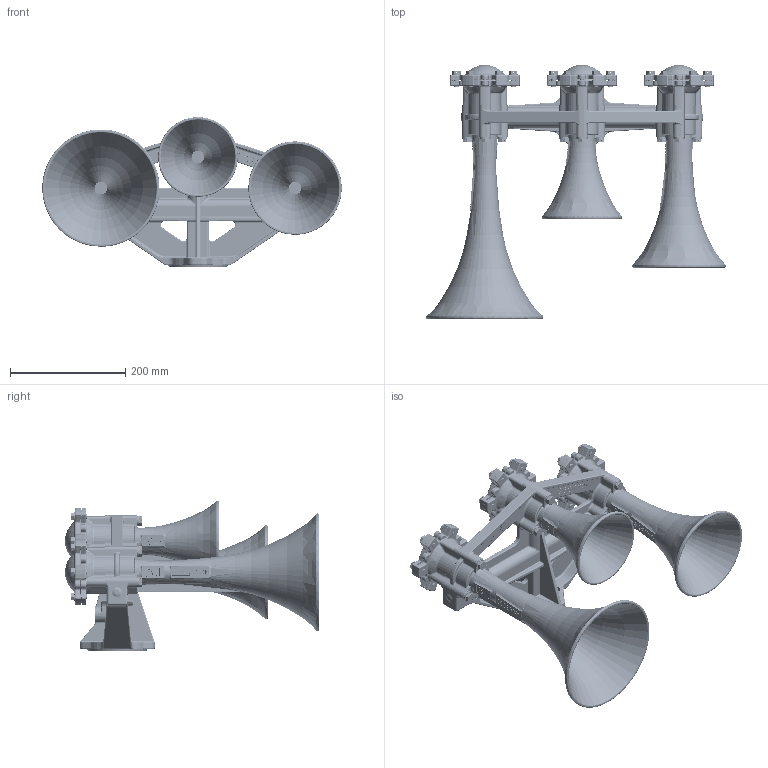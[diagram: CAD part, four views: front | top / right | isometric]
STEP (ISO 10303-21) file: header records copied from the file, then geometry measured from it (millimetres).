
FILE_DESCRIPTION(/* description */ (''),/* implementation_level */ '2;1');
FILE_NAME(/* name */ 'E:/hidden/Engineering Projects/Leslie Controls SuperTyfon/CAD/Assemblies/SuperTyfon S-3B.step',/* time_stamp */ '2022-08-19T15:39:46+10:00',/* author */ (''),/* organization */ (''),/* preprocessor_version */ 'ST-DEVELOPER v19',/* originating_system */ 'Autodesk Translation Framework v11.7.0.108',/* authorisation */ '');
FILE_SCHEMA (('AUTOMOTIVE_DESIGN { 1 0 10303 214 3 1 1 }'));
Length unit declared in the file: inch
Products named in the file (22): SuperTyfon S-3B; 26020 Three Horn Base; Plug Weld; 24311 Gasket; #137547; #137548; #137549; 24438 Diaphragm Ring; 24437 Diaphragm; 25190 Diaphragm Ring Screw; 25200 Cap Screw, Back Cover; 13077 Lock Washer; 25202 Back Cover, Complete; 25190 Diaphragm Housing; 24503 Cap Screw, Horn; 10392 Lock Washer; #137559; #137560; #137561; #137562; #137563; #137564
Assembly tree (93 placements, depth 3):
  SuperTyfon S-3B
    26020 Three Horn Base
      Plug Weld  x2
    24311 Gasket  x6
    #137547
      #137548
      #137549
    10392 Lock Washer  x9
    24503 Cap Screw, Horn  x9
    25190 Diaphragm Housing  x3
    25202 Back Cover, Complete  x3
    13077 Lock Washer  x18
    25200 Cap Screw, Back Cover  x18
    25190 Diaphragm Ring Screw  x9
    24437 Diaphragm  x3
    24438 Diaphragm Ring  x3
    #137559
      #137560
      #137561
    #137562
      #137563
      #137564
Bounding box: 519.11 x 440.47 x 259.56 mm (x, y, z)
Volume: 2860564.3 mm3; surface area: 1066229.7 mm2
Topology: 96 solids, 96 shells, 5134 faces, 12867 edges, 7942 vertices
Faces by surface type: plane 1708, cylinder 1296, bspline 1036, torus 495, cone 427, sphere 172
Full cylindrical faces by diameter (mm): 0.794 x6, 1.191 x27, 1.587 x3, 1.984 x1, 2.381 x1, 2.778 x1, 3.175 x27, 3.572 x3, 4.762 x6, 5.556 x9, 6.35 x6, 7.938 x39, 7.987 x3, 8.136 x6, 8.334 x6, 9.525 x36, 10.319 x27, 11.112 x9, 14.287 x10, 18.256 x1, 22.225 x3, 39.688 x3, 44.45 x3, 44.648 x12, 49.212 x3, 53.975 x3, 69.85 x3, 73.025 x3, 73.223 x3, 85.725 x3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
Entity records: 137504 total; most frequent: CARTESIAN_POINT 55798, ORIENTED_EDGE 18010, DIRECTION 15047, EDGE_CURVE 9005, AXIS2_PLACEMENT_3D 5648, VERTEX_POINT 5626, EDGE_LOOP 3785, LINE 3751
